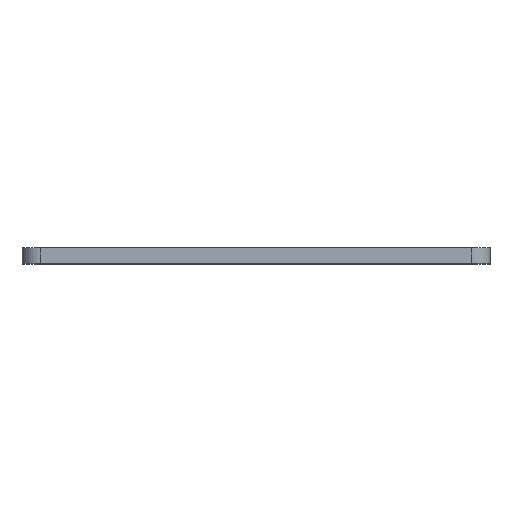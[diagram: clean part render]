
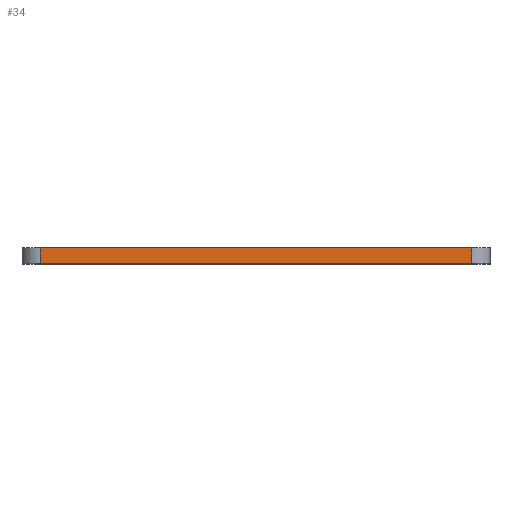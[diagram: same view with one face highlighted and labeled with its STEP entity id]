
A CAD part, top view. The second image highlights one B-rep face of the part: STEP entity #34.
In plain terms, the highlighted planar face has unit normal (0, 0, 1).
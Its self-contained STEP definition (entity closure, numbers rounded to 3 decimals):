
#8 = LINE ( 'NONE', #403, #523 ) ;
#34 = ADVANCED_FACE ( 'NONE', ( #624 ), #910, .F. ) ;
#38 = CARTESIAN_POINT ( 'NONE',  ( 3., 2.5, 0. ) ) ;
#44 = LINE ( 'NONE', #38, #600 ) ;
#167 = DIRECTION ( 'NONE',  ( 0., 0., -1. ) ) ;
#180 = CARTESIAN_POINT ( 'NONE',  ( 3., 2.5, 0. ) ) ;
#201 = DIRECTION ( 'NONE',  ( 1., 0., 0. ) ) ;
#221 = EDGE_LOOP ( 'NONE', ( #469, #395, #890, #542 ) ) ;
#245 = CARTESIAN_POINT ( 'NONE',  ( 0., 2.5, 0. ) ) ;
#260 = DIRECTION ( 'NONE',  ( 0., -1., 0. ) ) ;
#273 = LINE ( 'NONE', #287, #585 ) ;
#283 = VERTEX_POINT ( 'NONE', #180 ) ;
#287 = CARTESIAN_POINT ( 'NONE',  ( 0., 2.5, 0. ) ) ;
#358 = CARTESIAN_POINT ( 'NONE',  ( 3., 0., 0. ) ) ;
#374 = AXIS2_PLACEMENT_3D ( 'NONE', #245, #167, #962 ) ;
#395 = ORIENTED_EDGE ( 'NONE', *, *, #565, .F. ) ;
#403 = CARTESIAN_POINT ( 'NONE',  ( 73., 2.5, 0. ) ) ;
#426 = DIRECTION ( 'NONE',  ( 1., 0., 0. ) ) ;
#430 = CARTESIAN_POINT ( 'NONE',  ( 73., 0., 0. ) ) ;
#469 = ORIENTED_EDGE ( 'NONE', *, *, #734, .T. ) ;
#492 = VECTOR ( 'NONE', #426, 1000. ) ;
#523 = VECTOR ( 'NONE', #260, 1000. ) ;
#542 = ORIENTED_EDGE ( 'NONE', *, *, #786, .T. ) ;
#565 = EDGE_CURVE ( 'NONE', #607, #746, #8, .T. ) ;
#577 = LINE ( 'NONE', #864, #492 ) ;
#585 = VECTOR ( 'NONE', #201, 1000. ) ;
#600 = VECTOR ( 'NONE', #936, 1000. ) ;
#607 = VERTEX_POINT ( 'NONE', #851 ) ;
#624 = FACE_OUTER_BOUND ( 'NONE', #221, .T. ) ;
#734 = EDGE_CURVE ( 'NONE', #745, #746, #577, .T. ) ;
#745 = VERTEX_POINT ( 'NONE', #358 ) ;
#746 = VERTEX_POINT ( 'NONE', #430 ) ;
#786 = EDGE_CURVE ( 'NONE', #283, #745, #44, .T. ) ;
#796 = EDGE_CURVE ( 'NONE', #283, #607, #273, .T. ) ;
#851 = CARTESIAN_POINT ( 'NONE',  ( 73., 2.5, 0. ) ) ;
#864 = CARTESIAN_POINT ( 'NONE',  ( 0., 0., 0. ) ) ;
#890 = ORIENTED_EDGE ( 'NONE', *, *, #796, .F. ) ;
#910 = PLANE ( 'NONE',  #374 ) ;
#936 = DIRECTION ( 'NONE',  ( 0., -1., 0. ) ) ;
#962 = DIRECTION ( 'NONE',  ( -1., 0., 0. ) ) ;
